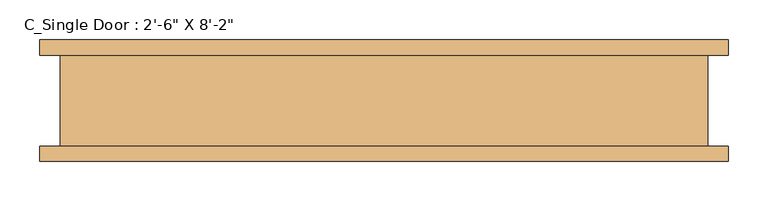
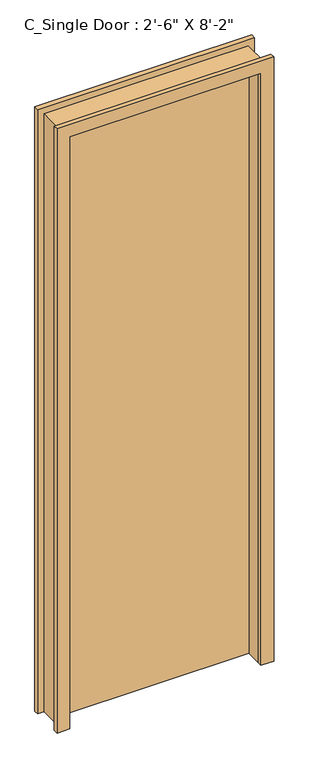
"""IFC4 building model written with IfcOpenShell, lengths in millimetres: door geometry."""

from ifc_helpers import new_model, si_unit, frame, origin, origin_with_axes, place, context, project, spatial, polyline, outline, extrude, source, transform, mapped, element, save


def door_43473639(model_context):
    return source(origin(), model_context, "Body", "SweptSolid", [
        extrude(outline(polyline([(381.0, 57.15), (381.0, 6.35), (-381.0, 6.35), (-381.0, 57.15), (381.0, 57.15)])), origin_with_axes(), (0.0, 0.0, 1.0), 2489.2),
        extrude(outline(polyline([(2489.2, -381.0), (2489.2, 381.0), (0.0, 381.0), (0.0, 431.8), (2540.0, 431.8), (2540.0, -431.8), (0.0, -431.8), (0.0, -381.0), (2489.2, -381.0)])), frame((0.0, 57.15, 0.0), z_axis=(0.0, 1.0, 0.0), x_axis=(0.0, 0.0, 1.0)), (0.0, 0.0, 1.0), 19.05),
        extrude(outline(polyline([(2489.2, -381.0), (2489.2, 381.0), (0.0, 381.0), (0.0, 431.8), (2540.0, 431.8), (2540.0, -431.8), (0.0, -431.8), (0.0, -381.0), (2489.2, -381.0)])), frame((0.0, -76.2, 0.0), z_axis=(0.0, 1.0, 0.0), x_axis=(0.0, 0.0, 1.0)), (0.0, 0.0, 1.0), 19.05),
        extrude(outline(polyline([(0.0, -381.0), (2489.2, -381.0), (2489.2, 381.0), (0.0, 381.0), (0.0, 406.4), (2514.6, 406.4), (2514.6, -406.4), (0.0, -406.4), (0.0, -381.0)])), frame((0.0, -57.15, 0.0), z_axis=(0.0, 1.0, 0.0), x_axis=(0.0, 0.0, 1.0)), (0.0, 0.0, 1.0), 114.3),
    ])


if __name__ == "__main__":
    model = new_model("IFC4")
    model_context = context("Model", 3, world=origin())
    ifc_project = project(units=[si_unit("LENGTHUNIT", "METRE", prefix="MILLI")], contexts=[model_context])
    site = spatial("IfcSite", under=ifc_project)
    building = spatial("IfcBuilding", under=site)
    placement = place(None, origin())
    door_shape = door_43473639(model_context)
    element("IfcDoor", 1, ObjectType="C_Single Door : 2'-6\" X 8'-2\"", at=placement, inside=building, context=model_context, shape_type="MappedRepresentation", body=[
        mapped(door_shape, transform((0.0, 0.0, 0.0), x_axis=(1.0, 0.0, 0.0), y_axis=(0.0, 1.0, 0.0), z_axis=(0.0, 0.0, 1.0))),
    ])
    save(model, "model.ifc")
